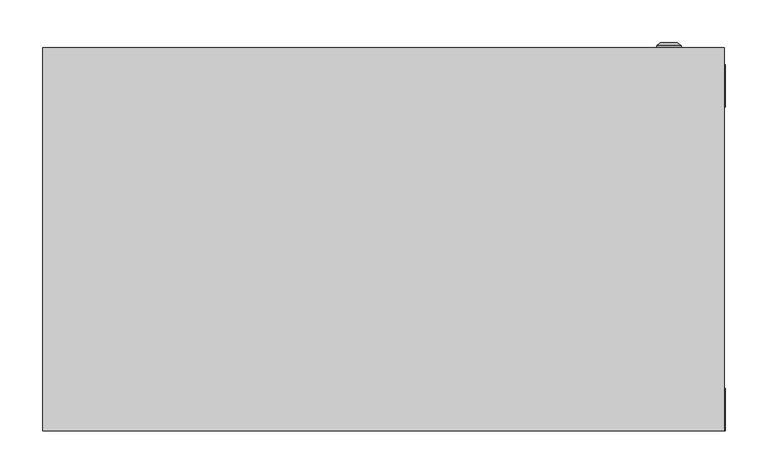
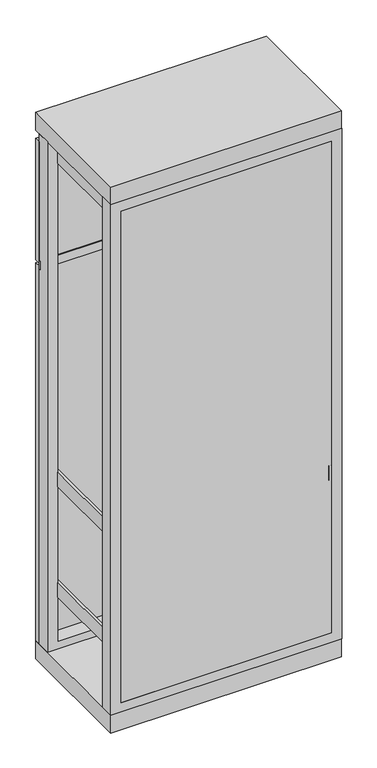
"""IFC4 building model written with IfcOpenShell, lengths in millimetres: proxy geometry, ВРУ-2 : ВРУ-2_2000х800х450."""

from ifc_helpers import new_model, si_unit, frame, origin, origin_with_axes, place, context, project, spatial, polyline, circle_curve, outline, extrude, source, transform, mapped, element, save
from ifc_brep_helpers import plane_surface, cylinder_surface, revolved_surface, advanced_brep


def electrical_equipment_548c03ec(model_context):
    return source(origin(), model_context, "Body", "SolidModel", [
        extrude(outline(polyline([(400.0, 425.0), (-400.0, 425.0), (-400.0, 430.0), (400.0, 430.0), (400.0, 425.0)])), frame((0.0, 0.0, 1440.0), z_axis=(0.0, 0.0, 1.0), x_axis=(1.0, 0.0, 0.0)), (0.0, 0.0, 1.0), 30.0),
        advanced_brep(
        [(320.669873, 450.0, 1680.0), (349.330127, 450.0, 1680.0), (335.0, 450.0, 1680.0), (320.669873, 452.366592, 1680.0), (349.330127, 452.366592, 1680.0), (325.0, 456.0, 1680.0), (345.0, 456.0, 1680.0), (333.1080471, 456.0, 1680.0), (336.8919529, 456.0, 1680.0), (333.1080471, 454.9822294, 1680.0), (336.8919529, 454.9822294, 1680.0), (335.0, 454.9822294, 1680.0)],
        [
            (0, 1, circle_curve(frame((335.0, 450.0, 1680.0), z_axis=(0.0, -1.0, 0.0), x_axis=(1.0, 0.0, 0.0)), 14.330127)),
            (1, 2),
            (2, 0),
            (1, 0, circle_curve(frame((335.0, 450.0, 1680.0), z_axis=(0.0, -1.0, 0.0), x_axis=(1.0, 0.0, 0.0)), 14.330127)),
            (3, 4, circle_curve(frame((335.0, 452.366592, 1680.0), z_axis=(0.0, -1.0, 0.0), x_axis=(1.0, 0.0, 0.0)), 14.330127)),
            (4, 1),
            (0, 3),
            (4, 3, circle_curve(frame((335.0, 452.366592, 1680.0), z_axis=(0.0, -1.0, 0.0), x_axis=(1.0, 0.0, 0.0)), 14.330127)),
            (5, 6, circle_curve(frame((335.0, 456.0, 1680.0), z_axis=(0.0, -1.0, 0.0), x_axis=(1.0, 0.0, 0.0)), 10.0)),
            (6, 4),
            (3, 5),
            (6, 5, circle_curve(frame((335.0, 456.0, 1680.0), z_axis=(0.0, -1.0, 0.0), x_axis=(1.0, 0.0, 0.0)), 10.0)),
            (7, 8, circle_curve(frame((335.0, 456.0, 1680.0), z_axis=(0.0, -1.0, 0.0), x_axis=(1.0, 0.0, 0.0)), 1.8919529)),
            (8, 6),
            (5, 7),
            (8, 7, circle_curve(frame((335.0, 456.0, 1680.0), z_axis=(0.0, -1.0, 0.0), x_axis=(1.0, 0.0, 0.0)), 1.8919529)),
            (9, 10, circle_curve(frame((335.0, 454.9822294, 1680.0), z_axis=(0.0, -1.0, 0.0), x_axis=(1.0, 0.0, 0.0)), 1.8919529)),
            (10, 8),
            (7, 9),
            (10, 9, circle_curve(frame((335.0, 454.9822294, 1680.0), z_axis=(0.0, -1.0, 0.0), x_axis=(1.0, 0.0, 0.0)), 1.8919529)),
            (11, 10),
            (9, 11),
        ],
        [
            plane_surface(frame((335.0, 450.0, 1680.0), z_axis=(0.0, -1.0, 0.0), x_axis=(1.0, 0.0, 0.0))),
            cylinder_surface(frame((335.0, 463.1348851, 1680.0), z_axis=(0.0, 1.0, 0.0), x_axis=(1.0, 0.0, 0.0)), 14.330127),
            revolved_surface(polyline([(349.330127, 452.366592, 1680.0), (345.0, 456.0, 1680.0)]), (335.0, 463.1348851, 1680.0), (0.0, 1.0, 0.0)),
            plane_surface(frame((335.0, 456.0, 1680.0), z_axis=(0.0, 1.0, 0.0), x_axis=(1.0, 0.0, 0.0))),
            revolved_surface(polyline([(336.8919529, 456.0, 1680.0), (336.8919529, 454.9822294, 1680.0)]), (335.0, 463.1348851, 1680.0), (0.0, 1.0, 0.0)),
            plane_surface(frame((335.0, 454.9822294, 1680.0), z_axis=(0.0, 1.0, 0.0), x_axis=(1.0, 0.0, 0.0))),
        ],
        [
            (0, [[1, 2, 3]]),
            (0, [[4, -3, -2]]),
            (1, [[5, 6, -1, 7]]),
            (1, [[8, -7, -4, -6]]),
            (2, [[9, 10, -5, 11]]),
            (2, [[12, -11, -8, -10]]),
            (3, [[13, 14, -9, 15]]),
            (3, [[16, -15, -12, -14]]),
            (4, [[17, 18, -13, 19]]),
            (4, [[20, -19, -16, -18]]),
            (5, [[21, -17, 22]]),
            (5, [[-22, -20, -21]]),
        ],
    ),
        extrude(outline(polyline([(400.0, 430.0), (-400.0, 430.0), (-400.0, 450.0), (400.0, 450.0), (400.0, 430.0)])), frame((0.0, 0.0, 1460.0), z_axis=(0.0, 0.0, 1.0), x_axis=(1.0, 0.0, 0.0)), (0.0, 0.0, 1.0), 445.0),
        extrude(outline(polyline([(365.8707865, 0.0), (-363.3426966, 0.0), (-363.3426966, 10.0), (365.8707865, 10.0), (365.8707865, 0.0)])), frame((0.0, 0.0, 99.1378449), z_axis=(0.0, 0.0, 1.0), x_axis=(1.0, 0.0, 0.0)), (0.0, 0.0, 1.0), 1799.6160511),
        extrude(outline(polyline([(-355.8707865, 125.9831461), (-315.8707865, 125.9831461), (-315.8707865, 93.1179775), (-318.8707865, 93.1179775), (-318.8707865, 122.9831461), (-352.8707865, 122.9831461), (-352.8707865, 93.1179775), (-355.8707865, 93.1179775), (-355.8707865, 125.9831461)])), frame((0.0, 0.0, 189.6067416), z_axis=(0.0, 0.0, 1.0), x_axis=(1.0, 0.0, 0.0)), (0.0, 0.0, 1.0), 1745.3932584),
        extrude(outline(polyline([(315.8707865, 125.9831461), (355.8707865, 125.9831461), (355.8707865, 93.1179775), (352.8707865, 93.1179775), (352.8707865, 122.9831461), (318.8707865, 122.9831461), (318.8707865, 93.1179775), (315.8707865, 93.1179775), (315.8707865, 125.9831461)])), frame((0.0, 0.0, 189.6067416), z_axis=(0.0, 0.0, 1.0), x_axis=(1.0, 0.0, 0.0)), (0.0, 0.0, 1.0), 1745.3932584),
        extrude(outline(polyline([(-355.8707865, 10.0), (-365.8707865, 10.0), (-365.8707865, 430.0), (-355.8707865, 430.0), (-355.8707865, 10.0)])), frame((0.0, 0.0, 1845.5966059), z_axis=(0.0, 0.0, 1.0), x_axis=(1.0, 0.0, 0.0)), (0.0, 0.0, 1.0), 53.0898876),
        extrude(outline(polyline([(365.8707865, 10.0), (355.8707865, 10.0), (355.8707865, 430.0), (365.8707865, 430.0), (365.8707865, 10.0)])), frame((0.0, 0.0, 1845.5966059), z_axis=(0.0, 0.0, 1.0), x_axis=(1.0, 0.0, 0.0)), (0.0, 0.0, 1.0), 53.0898876),
        extrude(outline(polyline([(-355.8707865, 10.0), (-365.8707865, 10.0), (-365.8707865, 430.0), (-355.8707865, 430.0), (-355.8707865, 10.0)])), frame((0.0, 0.0, 255.5966059), z_axis=(0.0, 0.0, 1.0), x_axis=(1.0, 0.0, 0.0)), (0.0, 0.0, 1.0), 53.0898876),
        extrude(outline(polyline([(365.8707865, 10.0), (355.8707865, 10.0), (355.8707865, 430.0), (365.8707865, 430.0), (365.8707865, 10.0)])), frame((0.0, 0.0, 255.5966059), z_axis=(0.0, 0.0, 1.0), x_axis=(1.0, 0.0, 0.0)), (0.0, 0.0, 1.0), 53.0898876),
        extrude(outline(polyline([(-355.8707865, 10.0), (-365.8707865, 10.0), (-365.8707865, 430.0), (-355.8707865, 430.0), (-355.8707865, 10.0)])), frame((0.0, 0.0, 660.5966059), z_axis=(0.0, 0.0, 1.0), x_axis=(1.0, 0.0, 0.0)), (0.0, 0.0, 1.0), 53.0898876),
        extrude(outline(polyline([(365.8707865, 0.0), (355.8707865, 0.0), (355.8707865, 430.0), (365.8707865, 430.0), (365.8707865, 0.0)])), frame((0.0, 0.0, 660.5966059), z_axis=(0.0, 0.0, 1.0), x_axis=(1.0, 0.0, 0.0)), (0.0, 0.0, 1.0), 53.0898876),
        extrude(outline(polyline([(1934.1471543, -400.0), (65.0187804, -400.0), (65.0187804, 401.2640449), (1934.1471543, 401.2640449), (1934.1471543, -400.0)]), holes=[polyline([(99.1378449, 365.8707865), (99.1378449, -363.3426966), (1898.7538959, -363.3426966), (1898.7538959, 365.8707865), (99.1378449, 365.8707865)])]), frame((0.0, 0.0, 0.0), z_axis=(0.0, 1.0, 0.0), x_axis=(0.0, 0.0, 1.0)), (0.0, 0.0, 1.0), 50.0),
        extrude(outline(polyline([(1935.0, -400.0), (65.0187804, -400.0), (65.0187804, 401.2640449), (1935.0, 401.2640449), (1935.0, -400.0)]), holes=[polyline([(93.3701084, 365.8707865), (93.3701084, -363.3426966), (1892.9861595, -363.3426966), (1892.9861595, 365.8707865), (93.3701084, 365.8707865)])]), frame((0.0, 380.0, 0.0), z_axis=(0.0, 1.0, 0.0), x_axis=(0.0, 0.0, 1.0)), (0.0, 0.0, 1.0), 50.0),
        extrude(outline(polyline([(400.0067809, 450.0), (400.0067809, 0.0), (-400.0, 0.0), (-400.0, 450.0), (400.0067809, 450.0)])), frame((0.0, 0.0, 1935.0), z_axis=(0.0, 0.0, 1.0), x_axis=(1.0, 0.0, 0.0)), (0.0, 0.0, 1.0), 65.0),
        advanced_brep(
        [(320.669873, 450.0, 375.0), (349.330127, 450.0, 375.0), (335.0, 450.0, 375.0), (320.669873, 452.366592, 375.0), (349.330127, 452.366592, 375.0), (325.0, 456.0, 375.0), (345.0, 456.0, 375.0), (333.1080471, 456.0, 375.0), (336.8919529, 456.0, 375.0), (333.1080471, 454.9822294, 375.0), (336.8919529, 454.9822294, 375.0), (335.0, 454.9822294, 375.0)],
        [
            (0, 1, circle_curve(frame((335.0, 450.0, 375.0), z_axis=(0.0, -1.0, 0.0), x_axis=(1.0, 0.0, 0.0)), 14.330127)),
            (1, 2),
            (2, 0),
            (1, 0, circle_curve(frame((335.0, 450.0, 375.0), z_axis=(0.0, -1.0, 0.0), x_axis=(1.0, 0.0, 0.0)), 14.330127)),
            (3, 4, circle_curve(frame((335.0, 452.366592, 375.0), z_axis=(0.0, -1.0, 0.0), x_axis=(1.0, 0.0, 0.0)), 14.330127)),
            (4, 1),
            (0, 3),
            (4, 3, circle_curve(frame((335.0, 452.366592, 375.0), z_axis=(0.0, -1.0, 0.0), x_axis=(1.0, 0.0, 0.0)), 14.330127)),
            (5, 6, circle_curve(frame((335.0, 456.0, 375.0), z_axis=(0.0, -1.0, 0.0), x_axis=(1.0, 0.0, 0.0)), 10.0)),
            (6, 4),
            (3, 5),
            (6, 5, circle_curve(frame((335.0, 456.0, 375.0), z_axis=(0.0, -1.0, 0.0), x_axis=(1.0, 0.0, 0.0)), 10.0)),
            (7, 8, circle_curve(frame((335.0, 456.0, 375.0), z_axis=(0.0, -1.0, 0.0), x_axis=(1.0, 0.0, 0.0)), 1.8919529)),
            (8, 6),
            (5, 7),
            (8, 7, circle_curve(frame((335.0, 456.0, 375.0), z_axis=(0.0, -1.0, 0.0), x_axis=(1.0, 0.0, 0.0)), 1.8919529)),
            (9, 10, circle_curve(frame((335.0, 454.9822294, 375.0), z_axis=(0.0, -1.0, 0.0), x_axis=(1.0, 0.0, 0.0)), 1.8919529)),
            (10, 8),
            (7, 9),
            (10, 9, circle_curve(frame((335.0, 454.9822294, 375.0), z_axis=(0.0, -1.0, 0.0), x_axis=(1.0, 0.0, 0.0)), 1.8919529)),
            (11, 10),
            (9, 11),
        ],
        [
            plane_surface(frame((335.0, 450.0, 375.0), z_axis=(0.0, -1.0, 0.0), x_axis=(1.0, 0.0, 0.0))),
            cylinder_surface(frame((335.0, 463.1348851, 375.0), z_axis=(0.0, 1.0, 0.0), x_axis=(1.0, 0.0, 0.0)), 14.330127),
            revolved_surface(polyline([(349.330127, 452.366592, 375.0), (345.0, 456.0, 375.0)]), (335.0, 463.1348851, 375.0), (0.0, 1.0, 0.0)),
            plane_surface(frame((335.0, 456.0, 375.0), z_axis=(0.0, 1.0, 0.0), x_axis=(1.0, 0.0, 0.0))),
            revolved_surface(polyline([(336.8919529, 456.0, 375.0), (336.8919529, 454.9822294, 375.0)]), (335.0, 463.1348851, 375.0), (0.0, 1.0, 0.0)),
            plane_surface(frame((335.0, 454.9822294, 375.0), z_axis=(0.0, 1.0, 0.0), x_axis=(1.0, 0.0, 0.0))),
        ],
        [
            (0, [[1, 2, 3]]),
            (0, [[4, -3, -2]]),
            (1, [[5, 6, -1, 7]]),
            (1, [[8, -7, -4, -6]]),
            (2, [[9, 10, -5, 11]]),
            (2, [[12, -11, -8, -10]]),
            (3, [[13, 14, -9, 15]]),
            (3, [[16, -15, -12, -14]]),
            (4, [[17, 18, -13, 19]]),
            (4, [[20, -19, -16, -18]]),
            (5, [[21, -17, 22]]),
            (5, [[-22, -20, -21]]),
        ],
    ),
        advanced_brep(
        [(320.669873, 450.0, 880.0), (349.330127, 450.0, 880.0), (335.0, 450.0, 880.0), (320.669873, 452.366592, 880.0), (349.330127, 452.366592, 880.0), (325.0, 456.0, 880.0), (345.0, 456.0, 880.0), (333.1080471, 456.0, 880.0), (336.8919529, 456.0, 880.0), (333.1080471, 454.9822294, 880.0), (336.8919529, 454.9822294, 880.0), (335.0, 454.9822294, 880.0)],
        [
            (0, 1, circle_curve(frame((335.0, 450.0, 880.0), z_axis=(0.0, -1.0, 0.0), x_axis=(1.0, 0.0, 0.0)), 14.330127)),
            (1, 2),
            (2, 0),
            (1, 0, circle_curve(frame((335.0, 450.0, 880.0), z_axis=(0.0, -1.0, 0.0), x_axis=(1.0, 0.0, 0.0)), 14.330127)),
            (3, 4, circle_curve(frame((335.0, 452.366592, 880.0), z_axis=(0.0, -1.0, 0.0), x_axis=(1.0, 0.0, 0.0)), 14.330127)),
            (4, 1),
            (0, 3),
            (4, 3, circle_curve(frame((335.0, 452.366592, 880.0), z_axis=(0.0, -1.0, 0.0), x_axis=(1.0, 0.0, 0.0)), 14.330127)),
            (5, 6, circle_curve(frame((335.0, 456.0, 880.0), z_axis=(0.0, -1.0, 0.0), x_axis=(1.0, 0.0, 0.0)), 10.0)),
            (6, 4),
            (3, 5),
            (6, 5, circle_curve(frame((335.0, 456.0, 880.0), z_axis=(0.0, -1.0, 0.0), x_axis=(1.0, 0.0, 0.0)), 10.0)),
            (7, 8, circle_curve(frame((335.0, 456.0, 880.0), z_axis=(0.0, -1.0, 0.0), x_axis=(1.0, 0.0, 0.0)), 1.8919529)),
            (8, 6),
            (5, 7),
            (8, 7, circle_curve(frame((335.0, 456.0, 880.0), z_axis=(0.0, -1.0, 0.0), x_axis=(1.0, 0.0, 0.0)), 1.8919529)),
            (9, 10, circle_curve(frame((335.0, 454.9822294, 880.0), z_axis=(0.0, -1.0, 0.0), x_axis=(1.0, 0.0, 0.0)), 1.8919529)),
            (10, 8),
            (7, 9),
            (10, 9, circle_curve(frame((335.0, 454.9822294, 880.0), z_axis=(0.0, -1.0, 0.0), x_axis=(1.0, 0.0, 0.0)), 1.8919529)),
            (11, 10),
            (9, 11),
        ],
        [
            plane_surface(frame((335.0, 450.0, 880.0), z_axis=(0.0, -1.0, 0.0), x_axis=(1.0, 0.0, 0.0))),
            cylinder_surface(frame((335.0, 463.1348851, 880.0), z_axis=(0.0, 1.0, 0.0), x_axis=(1.0, 0.0, 0.0)), 14.330127),
            revolved_surface(polyline([(349.330127, 452.366592, 880.0), (345.0, 456.0, 880.0)]), (335.0, 463.1348851, 880.0), (0.0, 1.0, 0.0)),
            plane_surface(frame((335.0, 456.0, 880.0), z_axis=(0.0, 1.0, 0.0), x_axis=(1.0, 0.0, 0.0))),
            revolved_surface(polyline([(336.8919529, 456.0, 880.0), (336.8919529, 454.9822294, 880.0)]), (335.0, 463.1348851, 880.0), (0.0, 1.0, 0.0)),
            plane_surface(frame((335.0, 454.9822294, 880.0), z_axis=(0.0, 1.0, 0.0), x_axis=(1.0, 0.0, 0.0))),
        ],
        [
            (0, [[1, 2, 3]]),
            (0, [[4, -3, -2]]),
            (1, [[5, 6, -1, 7]]),
            (1, [[8, -7, -4, -6]]),
            (2, [[9, 10, -5, 11]]),
            (2, [[12, -11, -8, -10]]),
            (3, [[13, 14, -9, 15]]),
            (3, [[16, -15, -12, -14]]),
            (4, [[17, 18, -13, 19]]),
            (4, [[20, -19, -16, -18]]),
            (5, [[21, -17, 22]]),
            (5, [[-22, -20, -21]]),
        ],
    ),
        extrude(outline(polyline([(400.0067809, 450.0), (400.0067809, 0.0), (-400.0, 0.0), (-400.0, 450.0), (400.0067809, 450.0)])), origin_with_axes(), (0.0, 0.0, 1.0), 65.0187804),
        extrude(outline(polyline([(400.0, 430.0), (-400.0, 430.0), (-400.0, 450.0), (400.0, 450.0), (400.0, 430.0)])), frame((0.0, 0.0, 65.0187804), z_axis=(0.0, 0.0, 1.0), x_axis=(1.0, 0.0, 0.0)), (0.0, 0.0, 1.0), 1384.9812196),
    ])


if __name__ == "__main__":
    model = new_model("IFC4")
    model_context = context("Model", 3, world=origin())
    ifc_project = project(units=[si_unit("LENGTHUNIT", "METRE", prefix="MILLI")], contexts=[model_context])
    site = spatial("IfcSite", under=ifc_project)
    building = spatial("IfcBuilding", under=site)
    placement = place(None, origin())
    electrical_equipment_shape = electrical_equipment_548c03ec(model_context)
    element("IfcBuildingElementProxy", 1, Name="ВРУ-2 : ВРУ-2_2000х800х450", ObjectType="ВРУ-2 : ВРУ-2_2000х800х450", at=placement, inside=building, context=model_context, shape_type="MappedRepresentation", body=[
        mapped(electrical_equipment_shape, transform((0.0, 0.0, 0.0), x_axis=(1.0, 0.0, 0.0), y_axis=(0.0, 1.0, 0.0), z_axis=(0.0, 0.0, 1.0))),
    ])
    save(model, "model.ifc")
